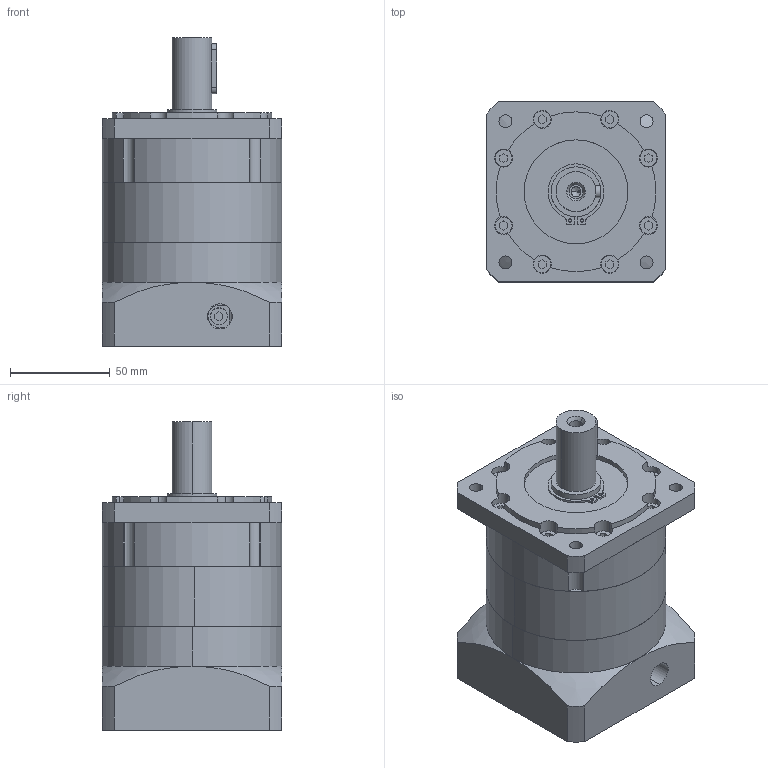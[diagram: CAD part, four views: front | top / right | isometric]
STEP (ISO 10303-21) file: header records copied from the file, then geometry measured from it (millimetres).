
FILE_DESCRIPTION (( 'STEP AP203' ), '1' );
FILE_NAME ('PLF090-L1-5-86-16x38.STEP', '2020-11-28T03:08:36', ( 'USER-' ), ( 'MS' ), 'SwSTEP 2.0', 'SolidWorks 2018', '' );
FILE_SCHEMA (( 'CONFIG_CONTROL_DESIGN' ));
Length unit declared in the file: millimetre
Products named in the file (8): PRF90 ___w_______^PLF090-L1-5-86-14x38(2)_PLF090-L1-5-86-14x38; PRF90 ___w__-14_D6-90 D7-19 ____^PLF090-L1-5-86-14x38(2)_PLF090-L1-5-86-14x38; __________ M5__20^PLF090-L1-5-86-14x38(2)_PLF090-L1-5-86-14x38; ______ 6x6x25^PLF090-L1-5-86-14x38(2)_PLF090-L1-5-86-14x38; ____-6007 35x62x14^PLF090-L1-5-86-14x38(2)_PLF090-L1-5-86-14x38; PLF090-L1-5-86-16x38; PRF90 ______-073-98.4-M6_D8-70 D9-90 D10-M5 A2-90 L4-32 L6-47(32+15) L7-6 R-59.5____^PLF090-L1-5-86-14x38(2)_PLF090-L1-5-86-14x38; PRF90 _________________^PLF090-L1-5-86-14x38(2)_PLF090-L1-5-86-14x38
Assembly tree (7 placements, depth 2):
  PLF090-L1-5-86-16x38
    PRF90 ______-073-98.4-M6_D8-70 D9-90 D10-M5 A2-90 L4-32 L6-47(32+15) L7-6 R-59.5____^PLF090-L1-5-86-14x38(2)_PLF090-L1-5-86-14x38
    PRF90 _________________^PLF090-L1-5-86-14x38(2)_PLF090-L1-5-86-14x38
    PRF90 ___w_______^PLF090-L1-5-86-14x38(2)_PLF090-L1-5-86-14x38
    PRF90 ___w__-14_D6-90 D7-19 ____^PLF090-L1-5-86-14x38(2)_PLF090-L1-5-86-14x38
    __________ M5__20^PLF090-L1-5-86-14x38(2)_PLF090-L1-5-86-14x38
    ______ 6x6x25^PLF090-L1-5-86-14x38(2)_PLF090-L1-5-86-14x38
    ____-6007 35x62x14^PLF090-L1-5-86-14x38(2)_PLF090-L1-5-86-14x38
Bounding box: 90 x 90 x 154.5 mm (x, y, z)
Volume: 711679.2 mm3; surface area: 139931.3 mm2
Topology: 7 solids, 7 shells, 582 faces, 1647 edges, 1050 vertices
Faces by surface type: cylinder 196, plane 188, sphere 132, torus 52, cone 14
Entity records: 24487 total; most frequent: CARTESIAN_POINT 8961, ORIENTED_EDGE 3142, DIRECTION 3074, EDGE_CURVE 1571, AXIS2_PLACEMENT_3D 1298, VERTEX_POINT 1028, CIRCLE 706, EDGE_LOOP 679
